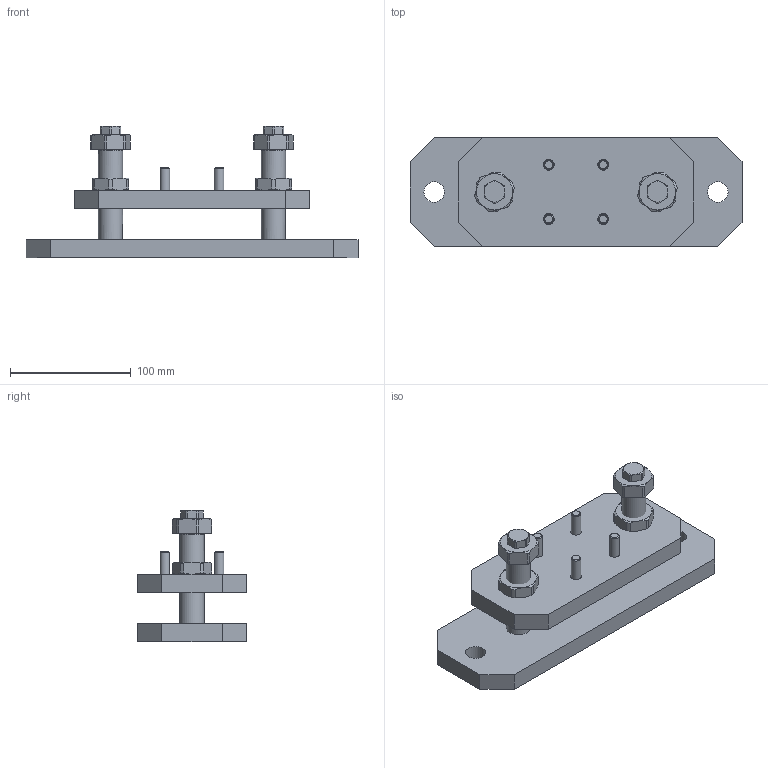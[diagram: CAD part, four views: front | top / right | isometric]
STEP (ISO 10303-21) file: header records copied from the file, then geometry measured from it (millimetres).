
FILE_DESCRIPTION(/* description */ (''),/* implementation_level */ '2;1');
FILE_NAME(/* name */ 'Z:\WEBSITE\DREAMWEAVER\MiniTec\Products\Floor_Mounting\CAD\Step\21.0976 LEVELING PLATE 90 ST_TOP.stp',/* time_stamp */ '2020-10-07T14:45:18-04:00',/* author */ ('amoles'),/* organization */ (''),/* preprocessor_version */ 'ST-DEVELOPER v18',/* originating_system */ 'Autodesk Inventor 2020',/* authorisation */ '');
FILE_SCHEMA (('AUTOMOTIVE_DESIGN { 1 0 10303 214 3 1 1 }'));
Length unit declared in the file: millimetre
Products named in the file (12): 21.0976 LEVELING PLATE 90 ST_TOP; 21; 21_1; 21_2; 21_3; 21_4; 21_9; 21_10; 21_13; 21_14; 21.1204 ; 21_12
Assembly tree (15 placements, depth 2):
  21.0976 LEVELING PLATE 90 ST_TOP
    21
    21_1
    21_2
    21_3
    21_4
    21_9
    21_10
    21_12  x2
    21_13
    21_14
    21.1204   x4
Bounding box: 275 x 90 x 109 mm (x, y, z)
Volume: 687071.6 mm3; surface area: 142912.5 mm2
Topology: 16 solids, 18 shells, 262 faces, 652 edges, 434 vertices
Faces by surface type: plane 120, cylinder 66, cone 66, torus 10
Full cylindrical faces by diameter (mm): 8 x4, 8.5 x2, 9 x4, 10 x2, 11 x2, 13 x4, 15 x4, 17 x2, 17.5 x4, 20 x2
Entity records: 6379 total; most frequent: CARTESIAN_POINT 1200, DIRECTION 1050, ORIENTED_EDGE 958, EDGE_CURVE 479, AXIS2_PLACEMENT_3D 439, VERTEX_POINT 316, EDGE_LOOP 223, CIRCLE 216
